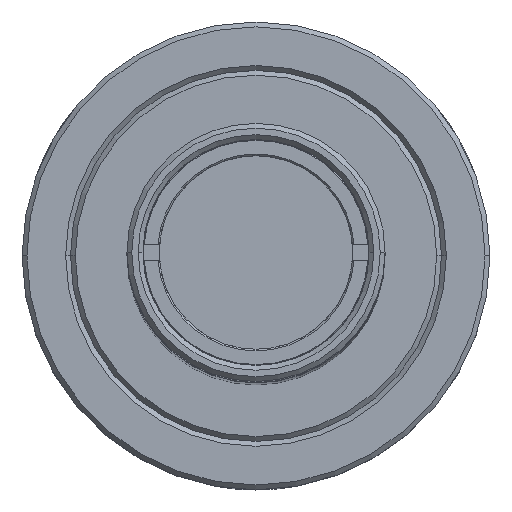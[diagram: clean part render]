
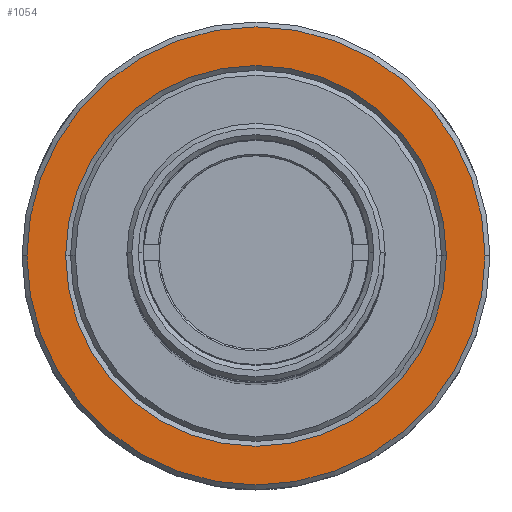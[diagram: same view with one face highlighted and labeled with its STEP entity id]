
A CAD part, top view. The second image highlights one B-rep face of the part: STEP entity #1054.
In plain terms, the highlighted planar face has unit normal (0, 0, 1).
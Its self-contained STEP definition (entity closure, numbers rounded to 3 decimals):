
#936 = ORIENTED_EDGE ( 'NONE', *, *, #3825, .T. ) ;
#999 = EDGE_CURVE ( 'NONE', #3824, #3822, #4308, .T. ) ;
#1001 = EDGE_CURVE ( 'NONE', #3820, #3774, #4331, .T. ) ;
#1005 = EDGE_LOOP ( 'NONE', ( #1040, #1052 ) ) ;
#1024 = EDGE_LOOP ( 'NONE', ( #1075, #936 ) ) ;
#1040 = ORIENTED_EDGE ( 'NONE', *, *, #3796, .T. ) ;
#1052 = ORIENTED_EDGE ( 'NONE', *, *, #999, .T. ) ;
#1054 = ADVANCED_FACE ( 'NONE', ( #4503, #4451 ), #4392, .F. ) ;
#1075 = ORIENTED_EDGE ( 'NONE', *, *, #1001, .T. ) ;
#2643 = CARTESIAN_POINT ( 'NONE',  ( 14.2, 0., -79.23 ) ) ;
#2664 = CARTESIAN_POINT ( 'NONE',  ( -11.8, 0., -79.23 ) ) ;
#2665 = CIRCLE ( 'NONE', #2671, 14.2 ) ;
#2671 = AXIS2_PLACEMENT_3D ( 'NONE', #2743, #2742, #2677 ) ;
#2672 = CARTESIAN_POINT ( 'NONE',  ( 11.8, 0., -79.23 ) ) ;
#2677 = DIRECTION ( 'NONE',  ( -1., 0., 0. ) ) ;
#2711 = CARTESIAN_POINT ( 'NONE',  ( 0., 0., -79.23 ) ) ;
#2712 = DIRECTION ( 'NONE',  ( -1., 0., 0. ) ) ;
#2714 = CARTESIAN_POINT ( 'NONE',  ( -14.2, 0., -79.23 ) ) ;
#2741 = CIRCLE ( 'NONE', #2749, 11.8 ) ;
#2742 = DIRECTION ( 'NONE',  ( 0., 0., 1. ) ) ;
#2743 = CARTESIAN_POINT ( 'NONE',  ( 0., 0., -79.23 ) ) ;
#2749 = AXIS2_PLACEMENT_3D ( 'NONE', #2711, #2750, #2712 ) ;
#2750 = DIRECTION ( 'NONE',  ( 0., 0., -1. ) ) ;
#3774 = VERTEX_POINT ( 'NONE', #2643 ) ;
#3796 = EDGE_CURVE ( 'NONE', #3822, #3824, #2741, .T. ) ;
#3820 = VERTEX_POINT ( 'NONE', #2714 ) ;
#3822 = VERTEX_POINT ( 'NONE', #2672 ) ;
#3824 = VERTEX_POINT ( 'NONE', #2664 ) ;
#3825 = EDGE_CURVE ( 'NONE', #3774, #3820, #2665, .T. ) ;
#4265 = AXIS2_PLACEMENT_3D ( 'NONE', #4284, #4333, #4345 ) ;
#4272 = AXIS2_PLACEMENT_3D ( 'NONE', #4330, #4329, #4328 ) ;
#4284 = CARTESIAN_POINT ( 'NONE',  ( 0., 0., -79.23 ) ) ;
#4308 = CIRCLE ( 'NONE', #4265, 11.8 ) ;
#4328 = DIRECTION ( 'NONE',  ( -1., 0., 0. ) ) ;
#4329 = DIRECTION ( 'NONE',  ( 0., 0., 1. ) ) ;
#4330 = CARTESIAN_POINT ( 'NONE',  ( 0., 0., -79.23 ) ) ;
#4331 = CIRCLE ( 'NONE', #4272, 14.2 ) ;
#4333 = DIRECTION ( 'NONE',  ( 0., 0., -1. ) ) ;
#4345 = DIRECTION ( 'NONE',  ( -1., 0., 0. ) ) ;
#4392 = PLANE ( 'NONE',  #4422 ) ;
#4422 = AXIS2_PLACEMENT_3D ( 'NONE', #4450, #4454, #4453 ) ;
#4450 = CARTESIAN_POINT ( 'NONE',  ( 0., 11.5, -79.23 ) ) ;
#4451 = FACE_OUTER_BOUND ( 'NONE', #1024, .T. ) ;
#4453 = DIRECTION ( 'NONE',  ( -1., 0., 0. ) ) ;
#4454 = DIRECTION ( 'NONE',  ( 0., 0., -1. ) ) ;
#4503 = FACE_BOUND ( 'NONE', #1005, .T. ) ;
